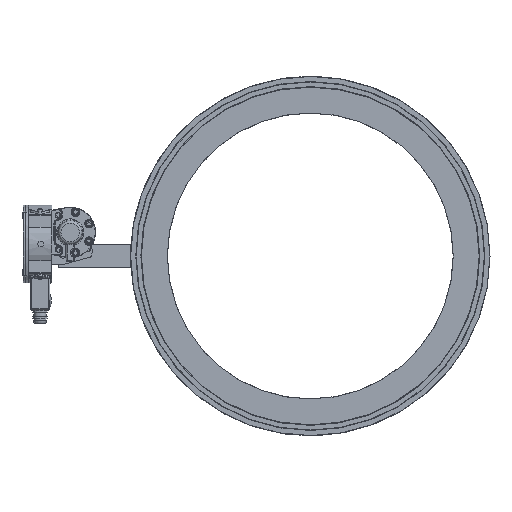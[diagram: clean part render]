
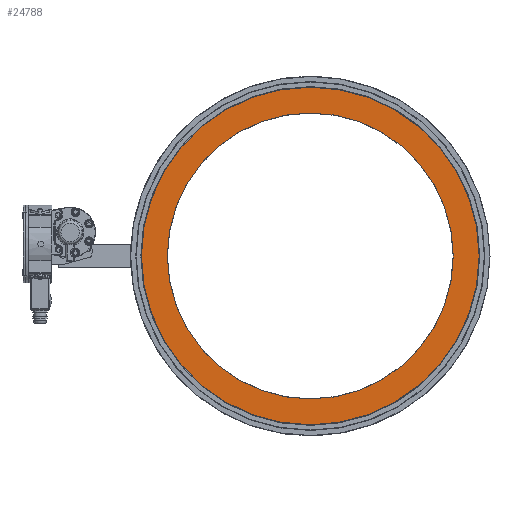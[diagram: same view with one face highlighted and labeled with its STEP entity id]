
A CAD part, top view. The second image highlights one B-rep face of the part: STEP entity #24788.
In plain terms, the highlighted planar face has unit normal (0, 0, 1).
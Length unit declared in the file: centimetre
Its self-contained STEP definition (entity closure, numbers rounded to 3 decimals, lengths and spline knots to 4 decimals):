
#7154=PLANE('',#26674);
#9240=VERTEX_POINT('',#59379);
#9241=VERTEX_POINT('',#59381);
#10153=CIRCLE('',#26713,29.075);
#10154=CIRCLE('',#26714,24.625);
#13317=EDGE_CURVE('',#9240,#9240,#10153,.T.);
#13318=EDGE_CURVE('',#9241,#9241,#10154,.T.);
#19650=ORIENTED_EDGE('',*,*,#13318,.F.);
#19651=ORIENTED_EDGE('',*,*,#13317,.F.);
#21539=EDGE_LOOP('',(#19650));
#21540=EDGE_LOOP('',(#19651));
#23325=FACE_BOUND('',#21539,.T.);
#23326=FACE_BOUND('',#21540,.T.);
#24788=ADVANCED_FACE('',(#23325,#23326),#7154,.F.);
#26674=AXIS2_PLACEMENT_3D('',#59297,#31289,$);
#26713=AXIS2_PLACEMENT_3D('',#59378,#31374,#31375);
#26714=AXIS2_PLACEMENT_3D('',#59380,#31376,#31377);
#31289=DIRECTION('',(0.,0.,-1.));
#31374=DIRECTION('',(0.,0.,-1.));
#31375=DIRECTION('',(-29.075,0.,0.));
#31376=DIRECTION('',(0.,0.,1.));
#31377=DIRECTION('',(24.625,0.,0.));
#59297=CARTESIAN_POINT('',(40.2535,-2.8808,-5.5525));
#59378=CARTESIAN_POINT('',(40.2535,-2.8808,-5.5525));
#59379=CARTESIAN_POINT('',(69.3285,-2.8808,-5.5525));
#59380=CARTESIAN_POINT('',(40.2535,-2.8808,-5.5525));
#59381=CARTESIAN_POINT('',(15.6285,-2.8808,-5.5525));
